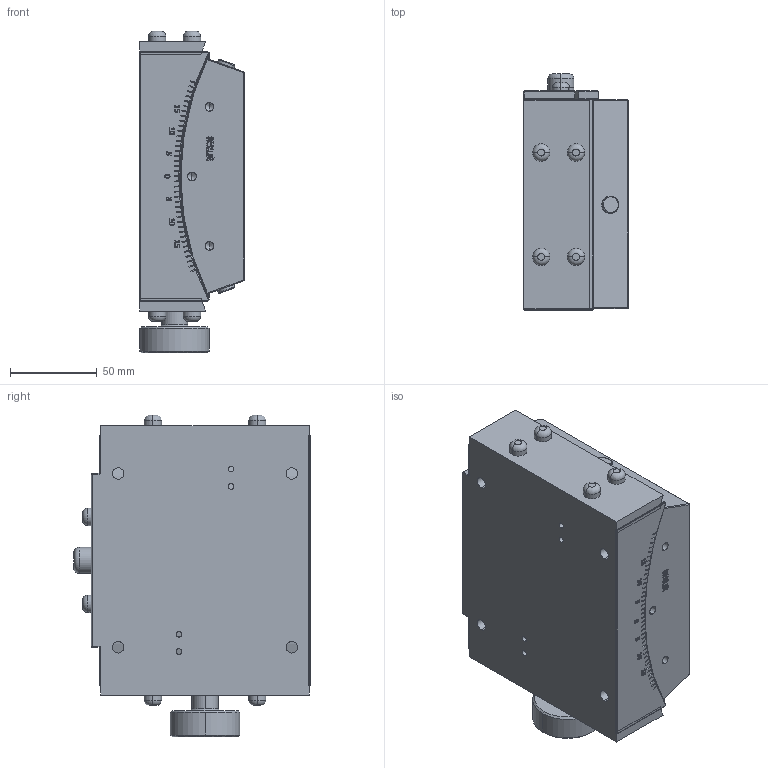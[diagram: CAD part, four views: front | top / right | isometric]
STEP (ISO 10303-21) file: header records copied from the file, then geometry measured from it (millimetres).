
FILE_DESCRIPTION (( 'STEP AP214' ), '1' );
FILE_NAME ('PT-SD311.STEP', '2022-09-11T02:53:36', ( '' ), ( '' ), 'SwSTEP 2.0', 'SolidWorks 2017', '' );
FILE_SCHEMA (( 'AUTOMOTIVE_DESIGN' ));
Length unit declared in the file: millimetre
Products named in the file (3): PT-SD312-狟釱; PT-SD312-奻釱; PT-SD311
Assembly tree (2 placements, depth 2):
  PT-SD311
    PT-SD312-狟釱
    PT-SD312-奻釱
Bounding box: 60 x 136 x 185 mm (x, y, z)
Volume: 1054048 mm3; surface area: 176694.6 mm2
Topology: 5 solids, 5 shells, 914 faces, 2451 edges, 1569 vertices
Faces by surface type: plane 415, bspline 205, cylinder 190, cone 82, torus 22
Entity records: 35509 total; most frequent: CARTESIAN_POINT 13804, ORIENTED_EDGE 4840, DIRECTION 3788, EDGE_CURVE 2420, VERTEX_POINT 1569, VECTOR 1314, LINE 1314, AXIS2_PLACEMENT_3D 1237
